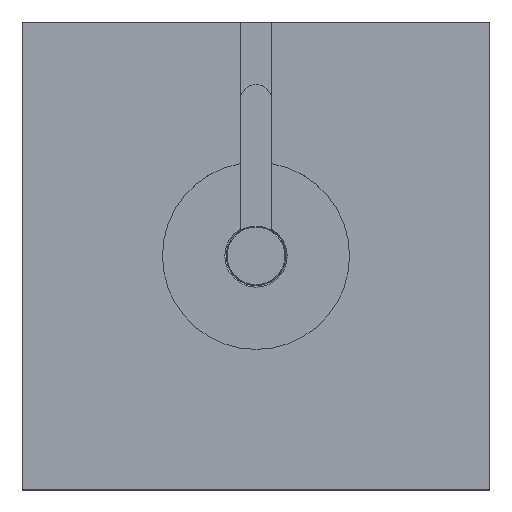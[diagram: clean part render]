
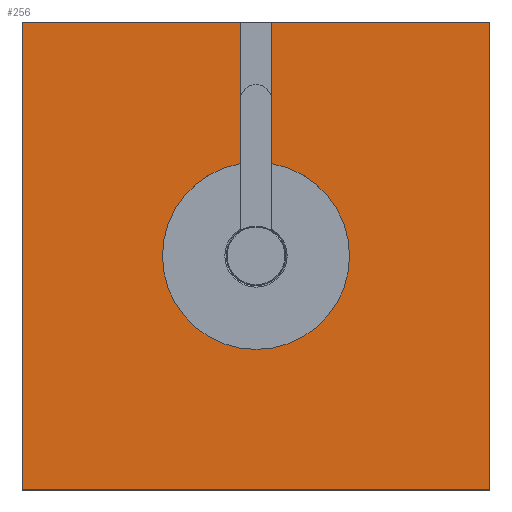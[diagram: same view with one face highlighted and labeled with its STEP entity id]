
A CAD part, top view. The second image highlights one B-rep face of the part: STEP entity #256.
In plain terms, the highlighted planar face has unit normal (0, 0, 1).
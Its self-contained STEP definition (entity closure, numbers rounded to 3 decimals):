
#256 = ADVANCED_FACE( '', ( #575 ), #576, .T. );
#575 = FACE_OUTER_BOUND( '', #987, .T. );
#576 = PLANE( '', #988 );
#987 = EDGE_LOOP( '', ( #1624, #1625, #1626, #1627, #1628, #1629, #1630, #1631 ) );
#988 = AXIS2_PLACEMENT_3D( '', #1632, #1633, #1634 );
#1624 = ORIENTED_EDGE( '', *, *, #2457, .T. );
#1625 = ORIENTED_EDGE( '', *, *, #2435, .T. );
#1626 = ORIENTED_EDGE( '', *, *, #2458, .T. );
#1627 = ORIENTED_EDGE( '', *, *, #2459, .T. );
#1628 = ORIENTED_EDGE( '', *, *, #2460, .T. );
#1629 = ORIENTED_EDGE( '', *, *, #2347, .T. );
#1630 = ORIENTED_EDGE( '', *, *, #2461, .T. );
#1631 = ORIENTED_EDGE( '', *, *, #2462, .T. );
#1632 = CARTESIAN_POINT( '', ( -150., -150., 0. ) );
#1633 = DIRECTION( '', ( 0., 0., 1. ) );
#1634 = DIRECTION( '', ( 0., -1., 0. ) );
#2347 = EDGE_CURVE( '', #2804, #2805, #2806, .T. );
#2435 = EDGE_CURVE( '', #2946, #2947, #2948, .T. );
#2457 = EDGE_CURVE( '', #2981, #2946, #2982, .T. );
#2458 = EDGE_CURVE( '', #2947, #2983, #2984, .T. );
#2459 = EDGE_CURVE( '', #2983, #2985, #2986, .T. );
#2460 = EDGE_CURVE( '', #2985, #2804, #2987, .T. );
#2461 = EDGE_CURVE( '', #2805, #2988, #2989, .T. );
#2462 = EDGE_CURVE( '', #2988, #2981, #2990, .T. );
#2804 = VERTEX_POINT( '', #3436 );
#2805 = VERTEX_POINT( '', #3437 );
#2806 = LINE( '', #3438, #3439 );
#2946 = VERTEX_POINT( '', #3698 );
#2947 = VERTEX_POINT( '', #3699 );
#2948 = LINE( '', #3700, #3701 );
#2981 = VERTEX_POINT( '', #3753 );
#2982 = CIRCLE( '', #3754, 60. );
#2983 = VERTEX_POINT( '', #3755 );
#2984 = LINE( '', #3756, #3757 );
#2985 = VERTEX_POINT( '', #3758 );
#2986 = LINE( '', #3759, #3760 );
#2987 = LINE( '', #3761, #3762 );
#2988 = VERTEX_POINT( '', #3763 );
#2989 = LINE( '', #3764, #3765 );
#2990 = LINE( '', #3766, #3767 );
#3436 = CARTESIAN_POINT( '', ( 150., -150., 0. ) );
#3437 = CARTESIAN_POINT( '', ( 150., 150., 0. ) );
#3438 = CARTESIAN_POINT( '', ( 150., -150., 0. ) );
#3439 = VECTOR( '', #4238, 1000. );
#3698 = CARTESIAN_POINT( '', ( -10., 59.161, 0. ) );
#3699 = CARTESIAN_POINT( '', ( -10., 150., 0. ) );
#3700 = CARTESIAN_POINT( '', ( -10., 0., 0. ) );
#3701 = VECTOR( '', #4328, 1000. );
#3753 = CARTESIAN_POINT( '', ( 10., 59.161, 0. ) );
#3754 = AXIS2_PLACEMENT_3D( '', #4348, #4349, #4350 );
#3755 = CARTESIAN_POINT( '', ( -150., 150., 0. ) );
#3756 = CARTESIAN_POINT( '', ( 150., 150., 0. ) );
#3757 = VECTOR( '', #4351, 1000. );
#3758 = CARTESIAN_POINT( '', ( -150., -150., 0. ) );
#3759 = CARTESIAN_POINT( '', ( -150., 150., 0. ) );
#3760 = VECTOR( '', #4352, 1000. );
#3761 = CARTESIAN_POINT( '', ( -150., -150., 0. ) );
#3762 = VECTOR( '', #4353, 1000. );
#3763 = CARTESIAN_POINT( '', ( 10., 150., 0. ) );
#3764 = CARTESIAN_POINT( '', ( 150., 150., 0. ) );
#3765 = VECTOR( '', #4354, 1000. );
#3766 = CARTESIAN_POINT( '', ( 10., 150., 0. ) );
#3767 = VECTOR( '', #4355, 1000. );
#4238 = DIRECTION( '', ( 0., 1., 0. ) );
#4328 = DIRECTION( '', ( 0., 1., 0. ) );
#4348 = CARTESIAN_POINT( '', ( 0., 0., 0. ) );
#4349 = DIRECTION( '', ( 0., 0., -1. ) );
#4350 = DIRECTION( '', ( -1., 0., 0. ) );
#4351 = DIRECTION( '', ( -1., 0., 0. ) );
#4352 = DIRECTION( '', ( 0., -1., 0. ) );
#4353 = DIRECTION( '', ( 1., 0., 0. ) );
#4354 = DIRECTION( '', ( -1., 0., 0. ) );
#4355 = DIRECTION( '', ( 0., -1., 0. ) );
